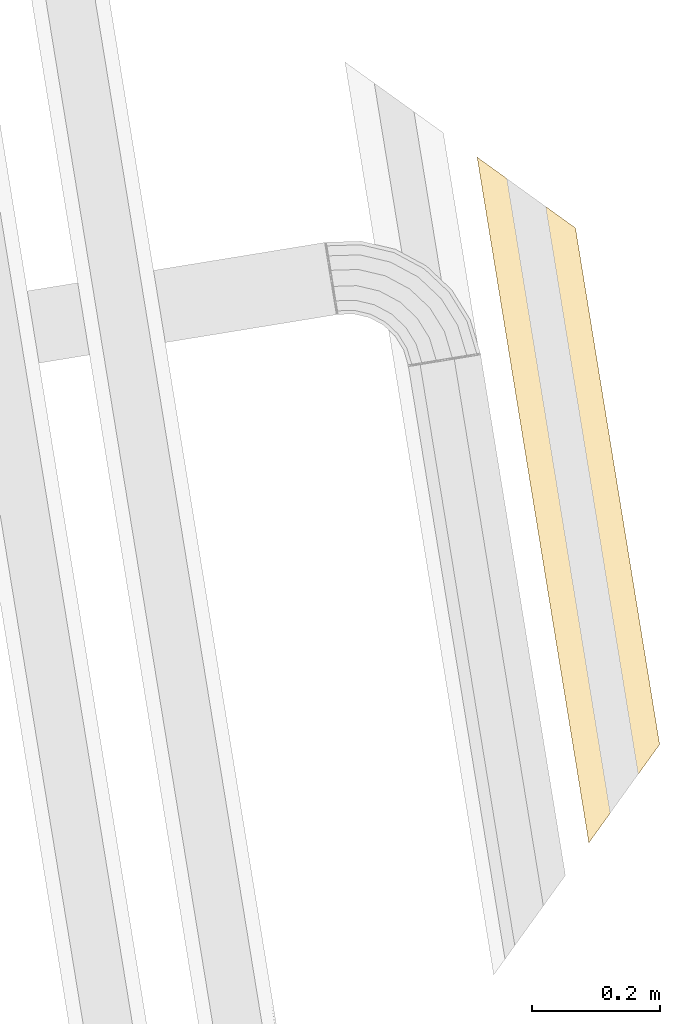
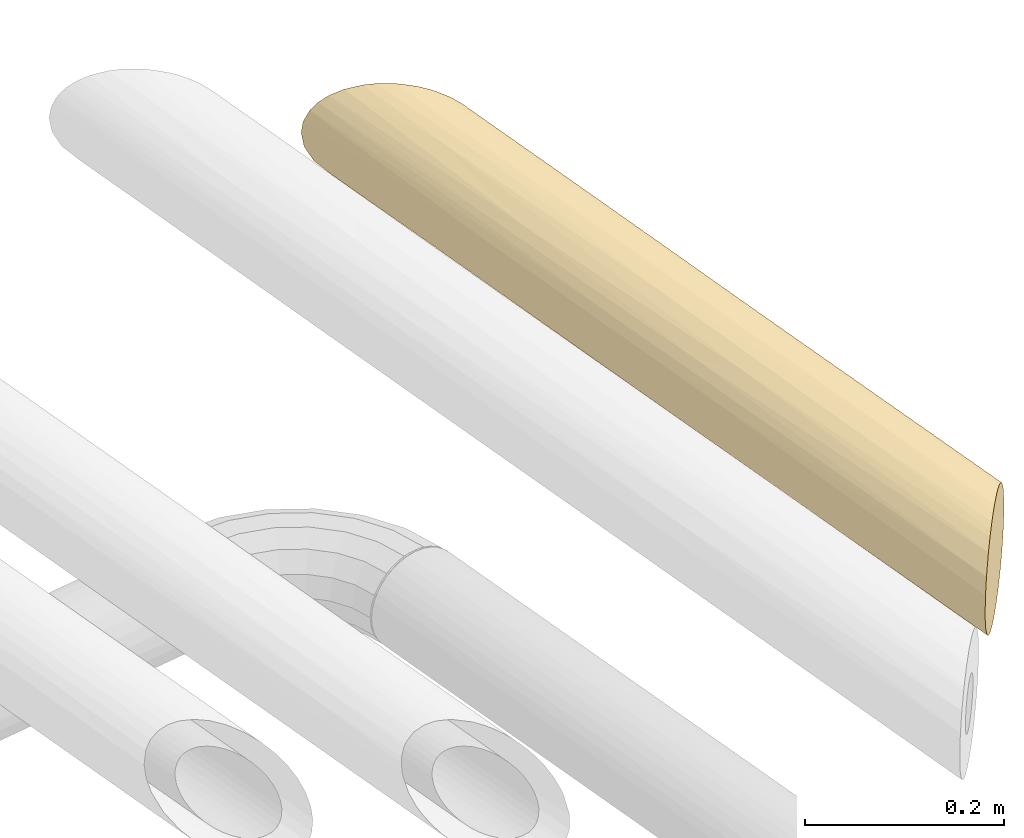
# One storey, part 10 of 46: 1 covering.
"""IFC2X3 building model written with IfcOpenShell, lengths in millimetres."""

from ifc_helpers import new_model, entity, si_unit, converted_unit, derived_unit, direction, frame, origin, origin_with_axes, place, context, subcontext, project, spatial, faceted_brep, type_object, element, save


model = new_model("IFC2X3")

# Units and contexts
model_context = context("Model", 3, precision=0.01, world=origin(), true_north=direction((6.12323399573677e-17, 1.0)))
plan_context = context("Plan", 3, precision=1e-05, world=origin_with_axes())
body_context = subcontext(model_context, "Body", "Model", "MODEL_VIEW")
ifc_project = project(units=[converted_unit("PLANEANGLEUNIT", "DEGREE", entity("IfcPositiveLengthMeasure", 0.0174532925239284), si_unit("PLANEANGLEUNIT", "RADIAN"), dimensions=[0, 0, 0, 0, 0, 0, 0]), si_unit("AREAUNIT", "SQUARE_METRE"), si_unit("LENGTHUNIT", "METRE", prefix="MILLI"), si_unit("MASSUNIT", "GRAM", prefix="KILO"), si_unit("POWERUNIT", "WATT"), si_unit("PRESSUREUNIT", "PASCAL", prefix="KILO"), si_unit("FORCEUNIT", "NEWTON", prefix="KILO"), si_unit("ELECTRICVOLTAGEUNIT", "VOLT"), si_unit("ELECTRICCURRENTUNIT", "AMPERE"), si_unit("THERMODYNAMICTEMPERATUREUNIT", "DEGREE_CELSIUS"), si_unit("TIMEUNIT", "SECOND"), si_unit("VOLUMEUNIT", "CUBIC_METRE"), derived_unit("LINEARVELOCITYUNIT", [(si_unit("LENGTHUNIT", "METRE"), 1), (si_unit("TIMEUNIT", "SECOND"), -1)]), derived_unit("VOLUMETRICFLOWRATEUNIT", [(si_unit("VOLUMEUNIT", "CUBIC_METRE"), 1), (si_unit("TIMEUNIT", "SECOND"), -1)]), derived_unit("THERMALTRANSMITTANCEUNIT", [(si_unit("POWERUNIT", "WATT"), 1), (si_unit("THERMODYNAMICTEMPERATUREUNIT", "KELVIN"), -1), (si_unit("AREAUNIT", "SQUARE_METRE"), -1)]), derived_unit("SOUNDPRESSUREUNIT", [(si_unit("PRESSUREUNIT", "PASCAL"), 1)])], contexts=[model_context, plan_context])

# Site, building, storey
site_placement = place(None, frame((-3.09682673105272e-06, 1.93776733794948e-05, 0.0), z_axis=(0.0, 0.0, 1.0), x_axis=(-0.160806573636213, 0.986985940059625, 0.0)))
site = spatial("IfcSite", under=ifc_project, at=site_placement, Name="Default", CompositionType="ELEMENT")
building_placement = place(site_placement, frame((0.0, 0.0, 0.0), z_axis=(0.0, 0.0, 1.0), x_axis=(1.0, -2.77555756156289e-17, 0.0)))
building = spatial("IfcBuilding", under=site, at=building_placement, Name="Bygning (endres i Project Information)", CompositionType="ELEMENT")
storey_placement = place(building_placement, frame((0.0, 0.0, 51360.0000000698), z_axis=(0.0, 0.0, 1.0), x_axis=(1.0, -2.77555756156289e-17, 0.0)))
storey = spatial("IfcBuildingStorey", under=building, at=storey_placement, Name="H01-Nivå D+0,36", CompositionType="ELEMENT", Elevation=51360.0000000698)

# Covering
covering_type = type_object("IfcCoveringType", Name="Pipe Insulation:GLAVA Rørskål ClimPipe Alu2, isol.kl.4, 45°C", PredefinedType="INSULATION")
covering_placement = place(storey_placement, frame((999118.436842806, -357324.22646199, 3591.40472772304), z_axis=(0.0, 0.0, 1.0), x_axis=(1.0, -2.77555756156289e-17, 0.0)))
element("IfcCovering", 1, at=covering_placement, inside=storey, type_object=covering_type, Name="Pipe Insulation:GLAVA Rørskål ClimPipe Alu2, isol.kl.4, 45°C", ObjectType="Pipe Insulation:GLAVA Rørskål ClimPipe Alu2, isol.kl.4, 45°C", PredefinedType="INSULATION", context=body_context, shape_type="Brep", body=[
    faceted_brep([(8410.19004484, 4.808169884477, 88.8091777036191), (8408.56098952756, 6.43722519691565, 93.3156735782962), (8520.78125315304, 5.46897905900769, 91.0468002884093), (8412.84058312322, 2.15763160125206, 73.4088254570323), (8520.78177618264, 1.59527223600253, 68.5952722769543), (8413.40294248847, 1.59527223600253, 68.5952722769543), (8356.56754126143, 58.4306734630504, 2.54669590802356), (8360.09447127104, 54.9037434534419, 3.10146075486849), (8391.17935339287, 56.1615802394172, 2.75908687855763), (8346.40294244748, 68.5952722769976, 1.59527223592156), (8656.52481003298, 68.5952722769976, 1.5952722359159), (8748.89856443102, 54.8621131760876, 3.01783449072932), (9111.52975018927, 68.5952722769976, 1.5952722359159), (8994.91748218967, 68.5952722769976, 1.5952722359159), (9186.1887505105, 48.9941311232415, 4.52659606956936), (9284.01432339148, 54.0355902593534, 3.77265275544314), (9298.57400540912, 68.5952722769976, 1.59527223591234), (9278.86030724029, 48.8815741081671, 4.56150746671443), (9270.03992004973, 40.0611869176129, 8.20527538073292), (9162.49704755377, 37.2509344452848, 9.37929055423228), (8886.4941973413, 43.1111894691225, 6.63107673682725), (9015.56861485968, 27.7251004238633, 15.5045098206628), (9258.42840933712, 28.4496762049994, 14.9610472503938), (9264.47996972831, 34.5012365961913, 11.0990437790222), (9248.69163508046, 18.7129019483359, 24.8699563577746), (9244.31715035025, 14.3384172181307, 29.3008551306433), (8860.66180586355, 15.4420997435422, 27.8063000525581), (8575.8778203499, 24.9266138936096, 17.7814131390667), (8524.78002356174, 15.6299503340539, 27.5626672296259), (8393.47542935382, 21.5227853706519, 21.1728742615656), (8398.46532943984, 16.5328852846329, 26.4604584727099), (8401.31026481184, 13.6879499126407, 30.5121439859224), (8405.96399312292, 9.03422160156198, 37.9466682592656), (8532.33499313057, 8.54218858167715, 38.8862308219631), (8407.73088458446, 7.26733014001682, 42.0961387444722), (8370.42779995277, 44.5704147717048, 6.06413922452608), (8377.07930508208, 37.9189096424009, 9.43094648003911), (8548.39290127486, 43.5142215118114, 6.46684965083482), (8387.0856003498, 27.9126143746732, 15.5101481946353), (8411.26142607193, 3.73678865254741, 52.1367677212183), (8711.10839673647, 2.8694589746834, 55.5907549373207), (8413.27980358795, 1.71841113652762, 67.7713377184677), (8425.30122004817, 1.59527223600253, 68.5952722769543), (8996.91672484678, 6.64355497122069, 43.0808699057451), (9178.22146327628, 2.86945897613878, 55.5907549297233), (9233.40047548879, 3.42174235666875, 53.6077640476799), (9236.07887717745, 6.10014404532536, 44.4848412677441), (9232.67044220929, 2.69170907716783, 57.4048937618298), (9312.19250803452, 82.2137749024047, 134.117629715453), (9300.81868174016, 70.8399486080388, 135.406129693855), (9118.8145877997, 79.8068774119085, 134.650551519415), (9298.57400540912, 68.5952722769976, 135.595272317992), (8891.25067182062, 68.5952722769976, 135.595272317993), (8868.25487491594, 89.2856303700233, 132.32053483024), (8520.78200579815, 68.5952722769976, 135.595272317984), (8520.78125170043, 91.0468003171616, 131.7215654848), (8338.26368600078, 76.7345287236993, 134.644376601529), (8327.85494583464, 87.1432688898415, 132.874346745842), (8696.01469700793, 105.883351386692, 124.260334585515), (9201.76416101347, 93.3368671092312, 130.859656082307), (9029.98882209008, 111.638970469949, 119.939600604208), (9321.84049965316, 105.150925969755, 124.744040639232), (9334.39076336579, 104.41203023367, 125.076132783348), (9321.40643718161, 91.427704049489, 131.498590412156), (9335.11165957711, 105.132926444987, 124.755601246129), (9338.18543517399, 108.206702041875, 122.266099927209), (9353.34566273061, 123.366929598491, 107.170532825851), (9346.53691238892, 116.558179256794, 115.316541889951), (9094.78116796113, 120.93244340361, 110.426128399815), (9353.5965177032, 123.617784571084, 106.81059798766), (8869.19650820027, 126.759415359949, 101.850835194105), (9359.11757452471, 129.138841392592, 97.2515356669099), (9359.62441686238, 129.645683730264, 96.1166995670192), (9074.28649797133, 131.734493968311, 91.0104164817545), (9363.99092356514, 134.012190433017, 82.870248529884), (9307.04320864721, 77.064475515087, 2.4291428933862), (9314.23844243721, 84.2597093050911, 3.52292287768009), (9166.17443066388, 81.6621272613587, 2.88182383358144), (9319.98336999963, 90.0046368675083, 5.19787066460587), (8994.91672552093, 94.2271558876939, 6.69206922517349), (9330.40676732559, 100.428034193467, 9.77831333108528), (9333.20764569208, 103.228912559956, 11.2639596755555), (8908.8371690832, 105.917530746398, 12.9531207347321), (9336.61219430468, 106.633461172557, 13.786408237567), (9177.15946794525, 112.73203393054, 18.1874725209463), (8845.35444333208, 119.157166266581, 24.6351212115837), (8581.99803411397, 109.425300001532, 15.4736303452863), (8544.47798917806, 118.219798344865, 23.5796481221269), (8299.29129293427, 115.706921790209, 20.9885178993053), (8300.88358409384, 114.114630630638, 19.515291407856), (8297.94236458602, 117.055850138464, 22.7790588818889), (8544.00251500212, 125.482049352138, 33.19902106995), (8290.28282409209, 124.715390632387, 32.0210840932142), (8285.39204698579, 129.606167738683, 41.5188403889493), (8339.91668434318, 130.913203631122, 43.9888617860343), (8605.68793273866, 133.452149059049, 51.7849915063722), (8297.80019212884, 134.540001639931, 56.7507514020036), (8520.78125000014, 135.595272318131, 68.5952722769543), (8279.40294240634, 135.595272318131, 68.5952722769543), (8280.33323746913, 134.664977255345, 58.1534969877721), (8281.77284212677, 133.225372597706, 85.5648174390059), (8425.30203715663, 135.595272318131, 68.5952722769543), (8281.99930845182, 132.998906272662, 87.0546532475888), (8711.10839602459, 131.819416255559, 90.7697536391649), (8284.55610443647, 130.442110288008, 92.885373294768), (8310.15399650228, 125.873291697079, 103.354853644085), (8760.74820723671, 119.235621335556, 112.465023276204), (8302.70005604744, 112.298158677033, 119.346745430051), (8296.91090619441, 118.087308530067, 112.501478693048), (8289.36576982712, 125.632444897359, 103.697625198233), (8288.89790608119, 126.100308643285, 102.901303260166), (8280.45127255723, 134.546942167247, 56.7907256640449), (8280.6530816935, 134.345133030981, 56.0490365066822), (8317.58502077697, 97.4131939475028, 8.42368571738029), (8328.10650151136, 86.8917132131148, 4.1865429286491), (8371.65304559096, 85.9693153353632, 3.88713806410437), (8314.87537239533, 100.122842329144, 9.48322865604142), (8604.61450195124, 96.0246089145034, 7.46727953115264), (8314.38259183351, 100.615622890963, 9.77816269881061), (8709.1083976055, 81.6621272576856, 2.88182383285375), (8423.30035424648, 68.5952722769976, 1.59527223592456), (8329.66459715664, 85.333617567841, 3.74588008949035), (8331.97302780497, 83.0251869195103, 3.49876862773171), (8303.19252405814, 111.805690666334, 119.776677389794), (8314.13733916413, 100.860875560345, 127.18696045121), (8891.25000000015, 135.595272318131, 68.5952722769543), (8996.91345670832, 135.595272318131, 68.5952722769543), (9346.37917184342, 135.595272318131, 68.5952722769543), (9118.81459251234, 133.32123966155, 51.2877839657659), (9365.57400545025, 135.595272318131, 68.5952722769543), (9364.26129290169, 134.282559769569, 81.3867618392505), (8938.34649381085, 127.945399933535, 37.5056863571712), (9346.37917782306, 126.653506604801, 35.1551551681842), (9356.96188450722, 126.983151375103, 35.9824983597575), (9363.52620661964, 133.547473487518, 52.1793002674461), (9365.41894689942, 135.440213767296, 67.2859256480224), (8284.03650147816, 130.961713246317, 44.1139123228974), (9344.06689057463, 114.088157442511, 19.4920641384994), (9356.38954590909, 126.410812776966, 34.8293498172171), (9356.65796836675, 126.679235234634, 35.2017027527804), (9345.53458148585, 115.555848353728, 116.351350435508), (8319.88978351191, 95.108431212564, 129.988256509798), (8425.2969917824, 68.5952722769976, 135.595272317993), (8996.91415981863, 68.5952722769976, 135.595272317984), (8711.10839636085, 46.4207909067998, 131.819416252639), (9074.28649935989, 46.1801281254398, 131.734493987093), (9288.42329171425, 58.4445585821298, 134.553566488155), (9281.99509534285, 52.0163622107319, 133.36752782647), (9272.60975466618, 42.6310215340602, 130.282672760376), (9269.07241263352, 39.0936795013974, 128.701514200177), (9261.30366455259, 31.3249314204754, 124.216360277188), (8869.19650966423, 35.3397093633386, 126.759415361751), (9258.80842280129, 28.8296896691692, 122.476824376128), (9094.78116957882, 26.7644161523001, 120.932443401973), (9253.65695054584, 23.6782174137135, 118.171971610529), (9249.72846140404, 19.7497282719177, 114.366604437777), (9029.98882438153, 17.2509439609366, 111.638970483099), (8760.74820969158, 24.7255212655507, 119.235621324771), (8696.01470124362, 12.9302099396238, 105.883351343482), (9201.76416143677, 6.3308884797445, 93.3368671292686), (8868.25487605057, 4.87000971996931, 89.2856303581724), (9118.81458902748, 2.53999303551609, 79.8068774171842), (8891.25000000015, 1.59527223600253, 68.5952722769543), (9232.0486411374, 2.06990800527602, 74.2280781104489), (9231.57400536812, 1.59527223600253, 68.5952722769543), (9232.83294439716, 2.8542112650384, 81.2260182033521), (9236.12611597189, 6.14738283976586, 92.7885444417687), (9238.16347739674, 8.18474426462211, 96.9181193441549), (9243.71139248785, 13.7326593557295, 106.887784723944), (8398.67417142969, 16.3240432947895, 110.366172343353), (8395.75633676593, 19.2418779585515, 113.707561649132), (8404.30361573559, 10.694598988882, 102.046748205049), (8382.62780836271, 32.3704063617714, 124.80568525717), (8354.74465933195, 60.2535553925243, 134.430301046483), (8346.40294244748, 68.5952722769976, 135.595272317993), (8379.00154670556, 35.9966680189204, 126.894295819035), (8365.58599242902, 49.4122222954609, 132.769151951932), (8380.97199885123, 34.0262158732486, 125.985543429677), (9241.40891520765, 11.4301820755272, 34.4047768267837)], [[[0, 1, 2]], [[3, 0, 2, 4]], [[5, 3, 4]], [[6, 7, 8]], [[9, 6, 8, 10]], [[10, 8, 11]], [[12, 13, 10, 11]], [[14, 12, 11]], [[15, 16, 12, 14]], [[17, 15, 14]], [[18, 17, 14, 19]], [[14, 20, 19]], [[19, 20, 21]], [[22, 23, 19, 21]], [[24, 22, 21]], [[25, 24, 21, 26]], [[21, 27, 26]], [[28, 26, 27]], [[29, 30, 28, 27]], [[30, 31, 28]], [[31, 32, 33, 28]], [[32, 34, 33]], [[35, 36, 37]], [[36, 38, 27, 37]], [[37, 27, 20]], [[37, 20, 11]], [[34, 39, 40, 33]], [[39, 41, 42, 40]], [[43, 33, 40]], [[43, 40, 44]], [[45, 46, 43, 44]], [[47, 45, 44]], [[48, 49, 50]], [[49, 51, 52, 50]], [[53, 50, 52]], [[54, 53, 52]], [[55, 53, 54]], [[56, 57, 55, 54]], [[55, 58, 53]], [[59, 53, 58]], [[58, 60, 59]], [[60, 61, 59]], [[62, 63, 59, 61]], [[64, 62, 61]], [[65, 64, 61]], [[66, 67, 68]], [[69, 66, 68, 70]], [[71, 69, 70]], [[72, 71, 70, 73]], [[74, 72, 73]], [[75, 76, 77]], [[76, 78, 79, 77]], [[78, 80, 79]], [[80, 81, 82, 79]], [[81, 83, 84, 82]], [[84, 85, 82]], [[86, 82, 85]], [[86, 85, 87]], [[88, 89, 86, 87]], [[90, 88, 87, 91]], [[92, 90, 91]], [[93, 92, 91, 94]], [[94, 91, 95]], [[94, 95, 96]], [[95, 97, 96]], [[98, 99, 96, 97]], [[100, 98, 101]], [[102, 100, 101, 103]], [[104, 102, 103, 105]], [[103, 70, 105]], [[70, 106, 105]], [[107, 108, 105, 106]], [[108, 109, 105]], [[109, 110, 105]], [[111, 112, 96]], [[113, 114, 115]], [[116, 113, 115, 117]], [[118, 116, 117, 86]], [[119, 117, 115]], [[115, 120, 119]], [[117, 119, 79]], [[114, 121, 115]], [[121, 122, 115]], [[123, 107, 106, 58]], [[124, 123, 58]], [[110, 104, 105]], [[101, 97, 125, 126, 103]], [[73, 103, 126]], [[127, 126, 125, 128]], [[129, 130, 126]], [[95, 128, 125]], [[128, 95, 131]], [[132, 128, 131]], [[132, 131, 85]], [[131, 91, 85]], [[133, 134, 128, 132]], [[134, 135, 127, 128]], [[99, 111, 96]], [[95, 125, 97]], [[112, 136, 94, 96]], [[91, 131, 95]], [[136, 93, 94]], [[89, 118, 86]], [[91, 87, 85]], [[82, 86, 117]], [[84, 132, 85]], [[137, 138, 132, 84]], [[138, 139, 132]], [[83, 137, 84]], [[79, 82, 117]], [[79, 119, 77]], [[139, 133, 132]], [[135, 129, 127]], [[130, 74, 73, 126]], [[70, 103, 73]], [[68, 106, 70]], [[68, 60, 106]], [[67, 140, 60, 68]], [[140, 65, 61, 60]], [[106, 60, 58]], [[141, 124, 58, 55]], [[59, 50, 53]], [[142, 54, 52, 143, 144]], [[145, 144, 143]], [[146, 147, 145, 143]], [[147, 148, 145]], [[149, 150, 151]], [[150, 152, 153, 151]], [[152, 154, 153]], [[154, 155, 156, 153]], [[153, 156, 157]], [[157, 156, 158]], [[158, 156, 159]], [[159, 160, 158]], [[159, 161, 160]], [[160, 161, 162]], [[4, 160, 162]], [[163, 164, 162, 161]], [[165, 163, 161]], [[166, 165, 161, 159]], [[167, 166, 159]], [[2, 158, 160]], [[168, 167, 159, 156]], [[169, 170, 157, 158]], [[171, 169, 158]], [[170, 172, 157]], [[173, 174, 142]], [[175, 176, 144]], [[177, 175, 144, 151]], [[172, 177, 151, 157]], [[155, 168, 156]], [[153, 157, 151]], [[148, 149, 151, 145]], [[151, 144, 145]], [[176, 173, 142, 144]], [[63, 48, 50, 59]], [[51, 146, 143]], [[46, 178, 43]], [[43, 26, 33]], [[38, 29, 27]], [[33, 26, 28]], [[178, 25, 26, 43]], [[21, 20, 27]], [[23, 18, 19]], [[14, 11, 20]], [[8, 37, 11]], [[16, 75, 77, 119, 120]], [[7, 35, 37, 8]], [[122, 9, 120, 115]], [[41, 5, 42]], [[164, 47, 44, 40, 42]], [[2, 160, 4]], [[1, 171, 158, 2]], [[174, 56, 54]], [[57, 141, 55]], [[17, 18, 23, 22, 24, 25, 178, 46, 45, 47, 164, 163, 165, 166, 167, 168, 155, 154, 152, 150, 149, 148, 147, 146, 51, 49, 48, 63, 62, 64, 65, 140, 67, 66, 69, 71, 72, 74, 130, 129, 135, 134, 133, 139, 138, 137, 83, 81, 80, 78, 76, 75, 16, 15]], [[3, 5, 41, 39, 34, 32, 31, 30, 29, 38, 36, 35, 7, 6, 9, 122, 121, 114, 113, 116, 118, 89, 88, 90, 92, 93, 136, 112, 111, 99, 98, 100, 102, 104, 110, 109, 108, 107, 123, 124, 141, 57, 56, 174, 173, 176, 175, 177, 172, 170, 169, 171, 1, 0]]], orient=[[False], [False], [False], [False], [False], [False], [False], [False], [False], [False], [False], [False], [False], [False], [False], [False], [False], [False], [False], [False], [False], [False], [False], [False], [False], [False], [False], [False], [False], [False], [False], [False], [False], [False], [False], [False], [False], [False], [False], [False], [False], [False], [False], [False], [False], [False], [False], [False], [False], [False], [False], [False], [False], [False], [False], [False], [False], [False], [False], [False], [False], [False], [False], [False], [False], [False], [False], [False], [False], [False], [False], [False], [False], [False], [False], [False], [False], [False], [False], [False], [False], [False], [False], [False], [False], [False], [False], [False], [False], [False], [False], [False], [False], [False], [False], [False], [False], [False], [False], [False], [False], [False], [False], [False], [False], [False], [False], [False], [False], [False], [False], [False], [False], [False], [False], [False], [False], [False], [False], [False], [False], [False], [False], [False], [False], [False], [False], [False], [False], [False], [False], [False], [False], [False], [False], [False], [False], [False], [False], [False], [False], [False], [False], [False], [False], [False], [False], [False], [False], [False], [False], [False], [False], [False], [False], [False], [False], [False], [False], [False], [False], [False], [False], [False], [False], [False], [False], [False], [False], [False], [False], [False], [False], [False], [False], [False], [False]]),
])

save(model, "model.ifc")
